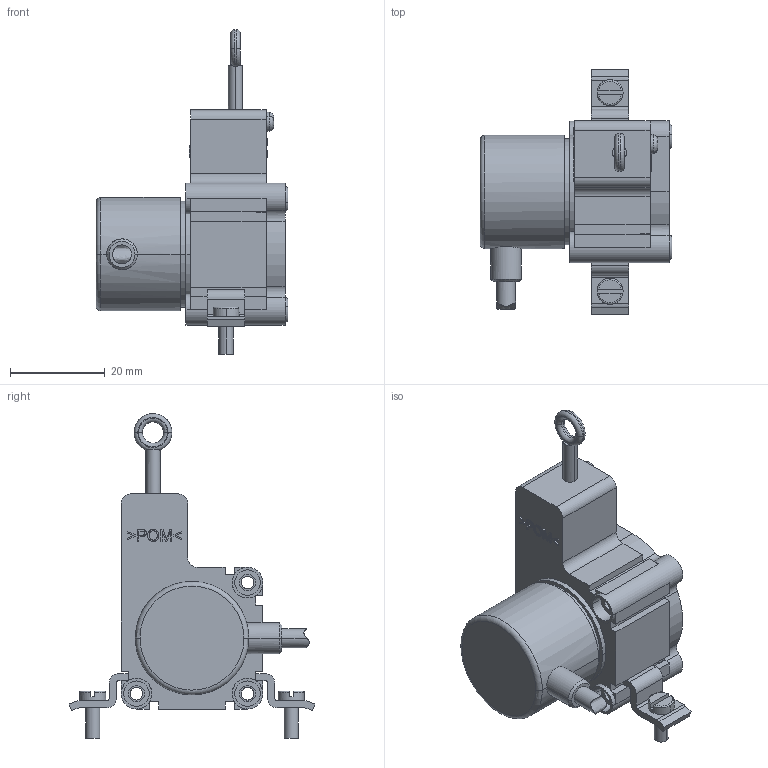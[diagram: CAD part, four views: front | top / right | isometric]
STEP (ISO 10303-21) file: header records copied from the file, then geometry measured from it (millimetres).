
FILE_DESCRIPTION((''),'2;1');
FILE_NAME('','2007-03-15T',(''),(''),'PRO/ENGINEER BY PARAMETRIC TECHNOLOGY CORPORATION, 2003250','PRO/ENGINEER BY PARAMETRIC TECHNOLOGY CORPORATION, 2003250','');
FILE_SCHEMA(('CONFIG_CONTROL_DESIGN'));
Length unit declared in the file: millimetre
Bounding box: 40.6 x 52 x 68.7 mm (x, y, z)
Volume: 18102.9 mm3; surface area: 13479.9 mm2
Topology: 1 solids, 13 shells, 595 faces, 1585 edges, 1060 vertices
Faces by surface type: plane 289, cylinder 151, extrusion 125, torus 20, cone 8, bspline 2
Entity records: 20056 total; most frequent: CARTESIAN_POINT 5323, ORIENTED_EDGE 3158, DIRECTION 2782, EDGE_CURVE 1579, VERTEX_POINT 1060, VECTOR 958, AXIS2_PLACEMENT_3D 912, LINE 833
